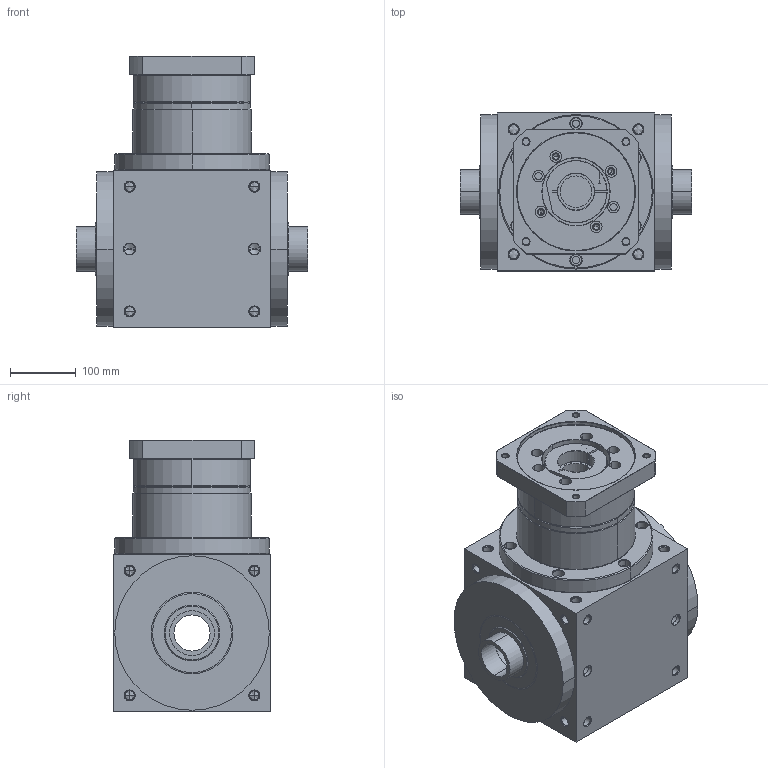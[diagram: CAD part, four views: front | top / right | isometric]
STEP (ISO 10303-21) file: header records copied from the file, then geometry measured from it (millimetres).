
FILE_DESCRIPTION((''),'2;1');
FILE_NAME('AT240FC1-P0403600601_ASM','2009-01-21T',('d00080'),(''),'PRO/ENGINEER BY PARAMETRIC TECHNOLOGY CORPORATION, 2006170','PRO/ENGINEER BY PARAMETRIC TECHNOLOGY CORPORATION, 2006170','');
FILE_SCHEMA(('CONFIG_CONTROL_DESIGN'));
Length unit declared in the file: millimetre
Products named in the file (6): AT240FC-A; P1801900001; P1502900001; P0501600001; P0403600601; AT240FC1-P0403600601_ASM
Assembly tree (5 placements, depth 2):
  AT240FC1-P0403600601_ASM
    AT240FC-A
    P1801900001
    P1502900001
    P0501600001
    P0403600601
Bounding box: 352 x 240 x 413.5 mm (x, y, z)
Volume: 18182567.6 mm3; surface area: 937535.6 mm2
Topology: 5 solids, 47 shells, 799 faces, 1948 edges, 1176 vertices
Faces by surface type: cylinder 358, cone 288, plane 121, torus 32
Entity records: 24179 total; most frequent: CARTESIAN_POINT 5153, DIRECTION 4292, ORIENTED_EDGE 3568, EDGE_CURVE 1868, AXIS2_PLACEMENT_3D 1804, VERTEX_POINT 1176, EDGE_LOOP 986, CIRCLE 984
